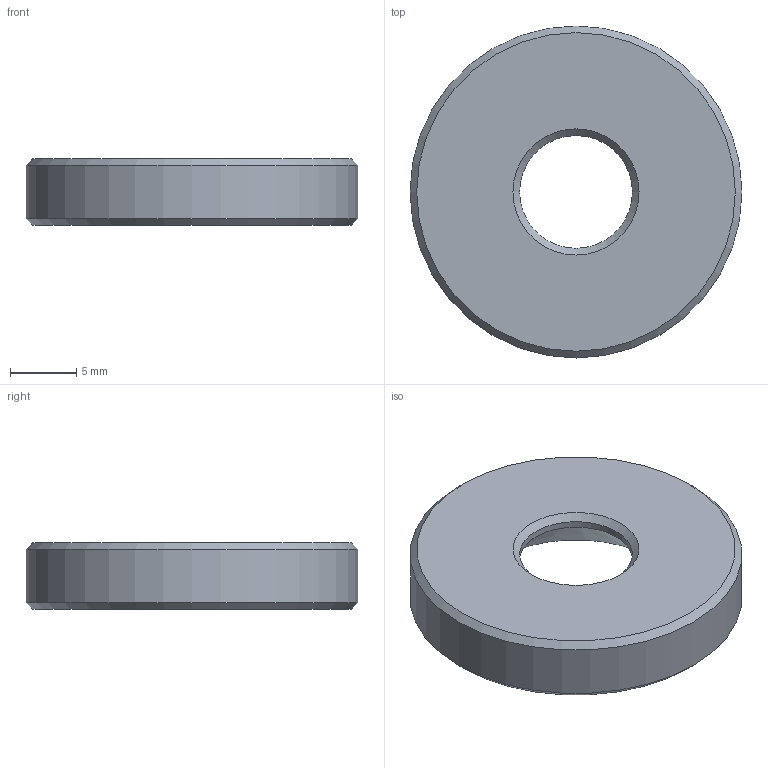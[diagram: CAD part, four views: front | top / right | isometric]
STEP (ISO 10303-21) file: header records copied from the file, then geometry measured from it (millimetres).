
FILE_DESCRIPTION(/* description */ (''),/* implementation_level */ '2;1');
FILE_NAME(/* name */ 'TRAYLOADER.86.stp',/* time_stamp */ '2025-05-12T16:11:09+02:00',/* author */ (''),/* organization */ (''),/* preprocessor_version */ 'ST-DEVELOPER v19.4',/* originating_system */ 'SIEMENS PLM Software NX2306.5001',/* authorisation */ '');
FILE_SCHEMA (('AP203_CONFIGURATION_CONTROLLED_3D_DESIGN_OF_MECHANICAL_PARTS_AND_ASSEMBLIES_MIM_LF { 1 0 10303 403 2 1 2}'));
Length unit declared in the file: millimetre
Products named in the file (1): TRAYLOADER.86_objects
Bounding box: 25 x 25 x 5 mm (x, y, z)
Volume: 1867.2 mm3; surface area: 1298.6 mm2
Topology: 1 solids, 1 shells, 8 faces, 16 edges, 10 vertices
Faces by surface type: cone 4, plane 2, cylinder 2
Full cylindrical faces by diameter (mm): 8.5 x1, 25 x1
Entity records: 254 total; most frequent: DIRECTION 34, CARTESIAN_POINT 25, AXIS2_PLACEMENT_3D 17, FACE_BOUND 16, EDGE_LOOP 16, ORIENTED_EDGE 16, ADVANCED_FACE 8, VERTEX_POINT 8
